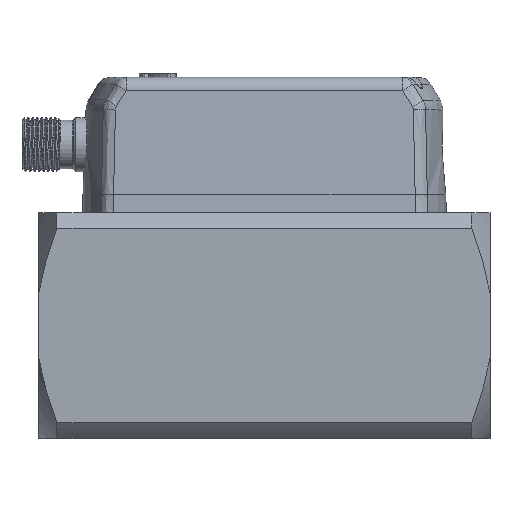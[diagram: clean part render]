
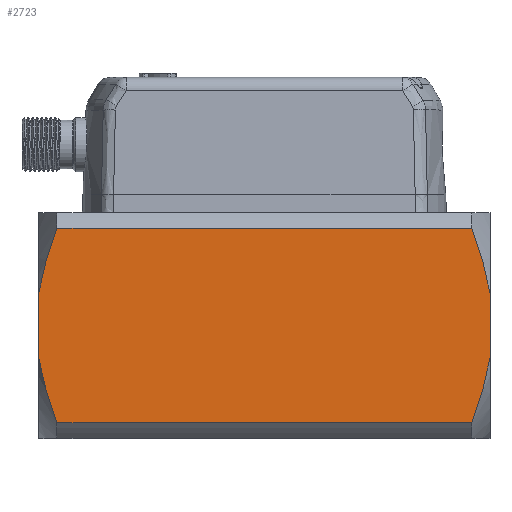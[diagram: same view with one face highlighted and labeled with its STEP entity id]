
A CAD part, top view. The second image highlights one B-rep face of the part: STEP entity #2723.
In plain terms, the highlighted planar face has unit normal (0, 0, 1).
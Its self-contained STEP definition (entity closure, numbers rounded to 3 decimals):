
#1094=B_SPLINE_CURVE_WITH_KNOTS('',3,(#28758,#28759,#28760,#28761),
 .UNSPECIFIED.,.F.,.F.,(4,4),(0.,1.),.UNSPECIFIED.);
#1095=B_SPLINE_CURVE_WITH_KNOTS('',3,(#28772,#28773,#28774,#28775),
 .UNSPECIFIED.,.F.,.F.,(4,4),(0.,1.),.UNSPECIFIED.);
#1096=B_SPLINE_CURVE_WITH_KNOTS('',3,(#28779,#28780,#28781,#28782),
 .UNSPECIFIED.,.F.,.F.,(4,4),(0.,1.),.UNSPECIFIED.);
#1097=B_SPLINE_CURVE_WITH_KNOTS('',3,(#28785,#28786,#28787,#28788),
 .UNSPECIFIED.,.F.,.F.,(4,4),(0.,1.),.UNSPECIFIED.);
#2053=PLANE('',#20622);
#2723=ADVANCED_FACE('',(#3950),#2053,.T.);
#3950=FACE_OUTER_BOUND('',#5047,.T.);
#5047=EDGE_LOOP('',(#10575,#10576,#10577,#10578,#10579,#10580,#10581,#10582));
#6270=LINE('',#28765,#7906);
#6271=LINE('',#28769,#7907);
#6272=LINE('',#28777,#7908);
#6273=LINE('',#28783,#7909);
#7906=VECTOR('',#22624,1.);
#7907=VECTOR('',#22629,1.);
#7908=VECTOR('',#22630,1.);
#7909=VECTOR('',#22631,1.);
#10575=ORIENTED_EDGE('',*,*,#17479,.F.);
#10576=ORIENTED_EDGE('',*,*,#17480,.T.);
#10577=ORIENTED_EDGE('',*,*,#17481,.F.);
#10578=ORIENTED_EDGE('',*,*,#17482,.T.);
#10579=ORIENTED_EDGE('',*,*,#17477,.F.);
#10580=ORIENTED_EDGE('',*,*,#17475,.F.);
#10581=ORIENTED_EDGE('',*,*,#17483,.T.);
#10582=ORIENTED_EDGE('',*,*,#17484,.F.);
#15443=VERTEX_POINT('',#28757);
#15444=VERTEX_POINT('',#28762);
#15445=VERTEX_POINT('',#28766);
#15446=VERTEX_POINT('',#28770);
#15447=VERTEX_POINT('',#28771);
#15448=VERTEX_POINT('',#28776);
#15449=VERTEX_POINT('',#28778);
#15450=VERTEX_POINT('',#28784);
#17475=EDGE_CURVE('',#15443,#15444,#1094,.T.);
#17477=EDGE_CURVE('',#15444,#15445,#6270,.T.);
#17479=EDGE_CURVE('',#15446,#15447,#6271,.T.);
#17480=EDGE_CURVE('',#15446,#15448,#1095,.T.);
#17481=EDGE_CURVE('',#15449,#15448,#6272,.T.);
#17482=EDGE_CURVE('',#15449,#15445,#1096,.T.);
#17483=EDGE_CURVE('',#15443,#15450,#6273,.T.);
#17484=EDGE_CURVE('',#15447,#15450,#1097,.T.);
#20622=AXIS2_PLACEMENT_3D('',#28789,#22632,#22633);
#22624=DIRECTION('',(1.,0.,0.));
#22629=DIRECTION('',(-1.,0.,0.));
#22630=DIRECTION('',(0.,-1.,0.));
#22631=DIRECTION('',(0.,-1.,0.));
#22632=DIRECTION('',(0.,0.,1.));
#22633=DIRECTION('',(-1.,0.,0.));
#28757=CARTESIAN_POINT('',(-5.,-12.349,-294.5));
#28758=CARTESIAN_POINT('',(-5.,-12.349,-294.5));
#28759=CARTESIAN_POINT('',(-4.214,-7.391,-294.5));
#28760=CARTESIAN_POINT('',(-2.723,-2.632,-294.5));
#28761=CARTESIAN_POINT('',(-0.959,2.051,-294.5));
#28762=CARTESIAN_POINT('',(-0.959,2.051,-294.5));
#28765=CARTESIAN_POINT('',(-5.,2.051,-294.5));
#28766=CARTESIAN_POINT('',(90.959,2.051,-294.5));
#28769=CARTESIAN_POINT('',(95.,-41.031,-294.5));
#28770=CARTESIAN_POINT('',(90.959,-41.031,-294.5));
#28771=CARTESIAN_POINT('',(-0.959,-41.031,-294.5));
#28772=CARTESIAN_POINT('',(90.959,-41.031,-294.5));
#28773=CARTESIAN_POINT('',(92.723,-36.348,-294.5));
#28774=CARTESIAN_POINT('',(94.214,-31.589,-294.5));
#28775=CARTESIAN_POINT('',(95.,-26.631,-294.5));
#28776=CARTESIAN_POINT('',(95.,-26.631,-294.5));
#28777=CARTESIAN_POINT('',(95.,2.051,-294.5));
#28778=CARTESIAN_POINT('',(95.,-12.349,-294.5));
#28779=CARTESIAN_POINT('',(95.,-12.349,-294.5));
#28780=CARTESIAN_POINT('',(94.214,-7.391,-294.5));
#28781=CARTESIAN_POINT('',(92.723,-2.632,-294.5));
#28782=CARTESIAN_POINT('',(90.959,2.051,-294.5));
#28783=CARTESIAN_POINT('',(-5.,2.051,-294.5));
#28784=CARTESIAN_POINT('',(-5.,-26.631,-294.5));
#28785=CARTESIAN_POINT('',(-0.959,-41.031,-294.5));
#28786=CARTESIAN_POINT('',(-2.723,-36.348,-294.5));
#28787=CARTESIAN_POINT('',(-4.214,-31.589,-294.5));
#28788=CARTESIAN_POINT('',(-5.,-26.631,-294.5));
#28789=CARTESIAN_POINT('',(95.,5.51,-294.5));
